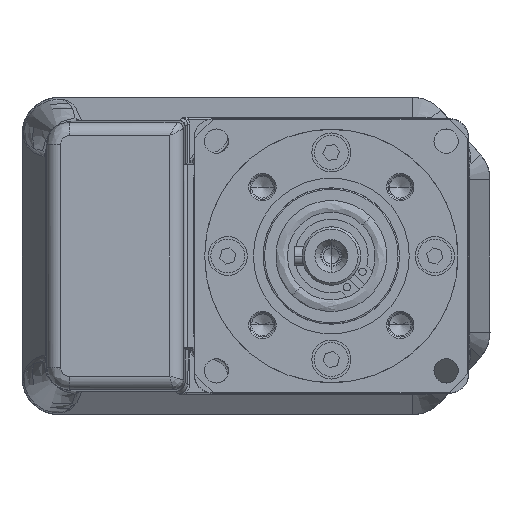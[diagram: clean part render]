
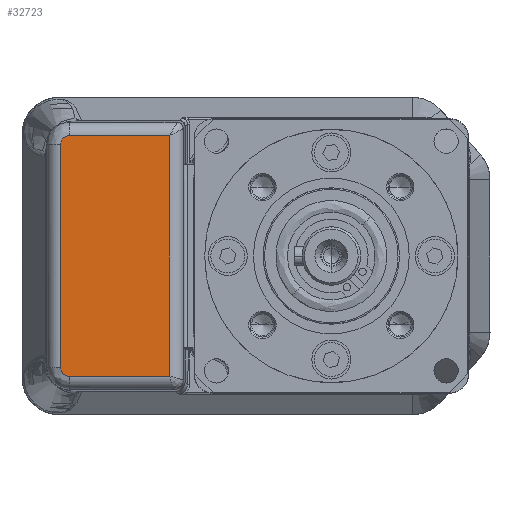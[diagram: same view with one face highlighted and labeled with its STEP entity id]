
A CAD part, left-side view. The second image highlights one B-rep face of the part: STEP entity #32723.
In plain terms, the highlighted planar face has unit normal (-1, 0, 0) as drawn and (0, 1, 0) by its records, which use the part's own axes.
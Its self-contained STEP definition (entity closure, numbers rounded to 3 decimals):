
#79 = CARTESIAN_POINT ( 'NONE',  ( -23.57, 53.267, 55.568 ) ) ;
#1755 = VECTOR ( 'NONE', #54759, 1000. ) ;
#4023 = FACE_OUTER_BOUND ( 'NONE', #114211, .T. ) ;
#5977 = CARTESIAN_POINT ( 'NONE',  ( 24.67, 53.267, 44.397 ) ) ;
#8269 = CARTESIAN_POINT ( 'NONE',  ( 23.68, 53.267, 55.394 ) ) ;
#8456 = EDGE_CURVE ( 'NONE', #107054, #138963, #151244, .T. ) ;
#18550 = CARTESIAN_POINT ( 'NONE',  ( 0., 53.267, 58.677 ) ) ;
#21613 = CARTESIAN_POINT ( 'NONE',  ( 23.999, 53.267, 55.194 ) ) ;
#22233 = ORIENTED_EDGE ( 'NONE', *, *, #32581, .F. ) ;
#23705 = VERTEX_POINT ( 'NONE', #135812 ) ;
#26740 = CARTESIAN_POINT ( 'NONE',  ( -24.245, 53.267, 55.164 ) ) ;
#27524 = EDGE_CURVE ( 'NONE', #77144, #106489, #56649, .T. ) ;
#31367 = AXIS2_PLACEMENT_3D ( 'NONE', #18550, #111359, #31911 ) ;
#31911 = DIRECTION ( 'NONE',  ( 1., 0., 0. ) ) ;
#32159 = ORIENTED_EDGE ( 'NONE', *, *, #129413, .F. ) ;
#32581 = EDGE_CURVE ( 'NONE', #165086, #107054, #38359, .T. ) ;
#32723 = ADVANCED_FACE ( 'NONE', ( #4023 ), #97450, .F. ) ;
#34938 = CARTESIAN_POINT ( 'NONE',  ( 24.109, 53.267, 55.101 ) ) ;
#35051 = VECTOR ( 'NONE', #138740, 1000. ) ;
#38359 = B_SPLINE_CURVE_WITH_KNOTS ( 'NONE', 3,
 ( #92881, #79, #26740, #119557, #40063, #132849 ),
 .UNSPECIFIED., .F., .F.,
 ( 4, 2, 4 ),
 ( 0., 0.732, 1. ),
 .UNSPECIFIED. ) ;
#39047 = LINE ( 'NONE', #107900, #109635 ) ;
#40063 = CARTESIAN_POINT ( 'NONE',  ( -24.673, 53.267, 54.062 ) ) ;
#41408 = CARTESIAN_POINT ( 'NONE',  ( 0., 53.267, 33.176 ) ) ;
#44946 = CARTESIAN_POINT ( 'NONE',  ( 22.893, 53.267, 55.589 ) ) ;
#45477 = VECTOR ( 'NONE', #62880, 1000. ) ;
#48310 = CARTESIAN_POINT ( 'NONE',  ( 24.326, 53.267, 54.896 ) ) ;
#49563 = CARTESIAN_POINT ( 'NONE',  ( -24.67, 53.267, 58.677 ) ) ;
#50976 = EDGE_CURVE ( 'NONE', #77144, #165086, #39047, .T. ) ;
#54556 = DIRECTION ( 'NONE',  ( -1., 0., 0. ) ) ;
#54759 = DIRECTION ( 'NONE',  ( 1., 0., 0. ) ) ;
#56649 = B_SPLINE_CURVE_WITH_KNOTS ( 'NONE', 3,
 ( #167002, #74370, #87741, #8269, #101078, #21613, #114415, #34938, #127724, #48310, #140991, #61600, #154258, #74933 ),
 .UNSPECIFIED., .F., .F.,
 ( 4, 2, 1, 1, 2, 2, 2, 4 ),
 ( 0., 0.25, 0.375, 0.437, 0.469, 0.5, 0.75, 1. ),
 .UNSPECIFIED. ) ;
#61600 = CARTESIAN_POINT ( 'NONE',  ( 24.63, 53.267, 54.28 ) ) ;
#62880 = DIRECTION ( 'NONE',  ( 0., 0., -1. ) ) ;
#69432 = CARTESIAN_POINT ( 'NONE',  ( -24.67, 53.267, 53.813 ) ) ;
#70360 = LINE ( 'NONE', #5977, #35051 ) ;
#70739 = ORIENTED_EDGE ( 'NONE', *, *, #137302, .F. ) ;
#74370 = CARTESIAN_POINT ( 'NONE',  ( 23.124, 53.267, 55.582 ) ) ;
#74933 = CARTESIAN_POINT ( 'NONE',  ( 24.67, 53.267, 53.813 ) ) ;
#77144 = VERTEX_POINT ( 'NONE', #44946 ) ;
#77236 = ORIENTED_EDGE ( 'NONE', *, *, #8456, .F. ) ;
#83697 = CARTESIAN_POINT ( 'NONE',  ( 24.67, 53.267, 53.813 ) ) ;
#85003 = CARTESIAN_POINT ( 'NONE',  ( -24.67, 53.267, 33.176 ) ) ;
#87741 = CARTESIAN_POINT ( 'NONE',  ( 23.35, 53.267, 55.532 ) ) ;
#89674 = ORIENTED_EDGE ( 'NONE', *, *, #50976, .F. ) ;
#92881 = CARTESIAN_POINT ( 'NONE',  ( -22.893, 53.267, 55.589 ) ) ;
#97450 = PLANE ( 'NONE',  #31367 ) ;
#101078 = CARTESIAN_POINT ( 'NONE',  ( 23.836, 53.267, 55.312 ) ) ;
#103402 = LINE ( 'NONE', #41408, #1755 ) ;
#106489 = VERTEX_POINT ( 'NONE', #83697 ) ;
#107054 = VERTEX_POINT ( 'NONE', #69432 ) ;
#107900 = CARTESIAN_POINT ( 'NONE',  ( 0., 53.267, 55.589 ) ) ;
#108827 = CARTESIAN_POINT ( 'NONE',  ( -22.893, 53.267, 55.589 ) ) ;
#109635 = VECTOR ( 'NONE', #54556, 1000. ) ;
#111359 = DIRECTION ( 'NONE',  ( 0., -1., 0. ) ) ;
#114211 = EDGE_LOOP ( 'NONE', ( #77236, #22233, #89674, #145972, #70739, #32159 ) ) ;
#114415 = CARTESIAN_POINT ( 'NONE',  ( 24.066, 53.267, 55.139 ) ) ;
#119557 = CARTESIAN_POINT ( 'NONE',  ( -24.625, 53.267, 54.312 ) ) ;
#127724 = CARTESIAN_POINT ( 'NONE',  ( 24.13, 53.267, 55.083 ) ) ;
#129413 = EDGE_CURVE ( 'NONE', #138963, #23705, #103402, .T. ) ;
#132849 = CARTESIAN_POINT ( 'NONE',  ( -24.67, 53.267, 53.813 ) ) ;
#135812 = CARTESIAN_POINT ( 'NONE',  ( 24.67, 53.267, 33.176 ) ) ;
#137302 = EDGE_CURVE ( 'NONE', #23705, #106489, #70360, .T. ) ;
#138740 = DIRECTION ( 'NONE',  ( 0., 0., 1. ) ) ;
#138963 = VERTEX_POINT ( 'NONE', #85003 ) ;
#140991 = CARTESIAN_POINT ( 'NONE',  ( 24.456, 53.267, 54.707 ) ) ;
#145972 = ORIENTED_EDGE ( 'NONE', *, *, #27524, .T. ) ;
#151244 = LINE ( 'NONE', #49563, #45477 ) ;
#154258 = CARTESIAN_POINT ( 'NONE',  ( 24.673, 53.267, 54.053 ) ) ;
#165086 = VERTEX_POINT ( 'NONE', #108827 ) ;
#167002 = CARTESIAN_POINT ( 'NONE',  ( 22.893, 53.267, 55.589 ) ) ;
